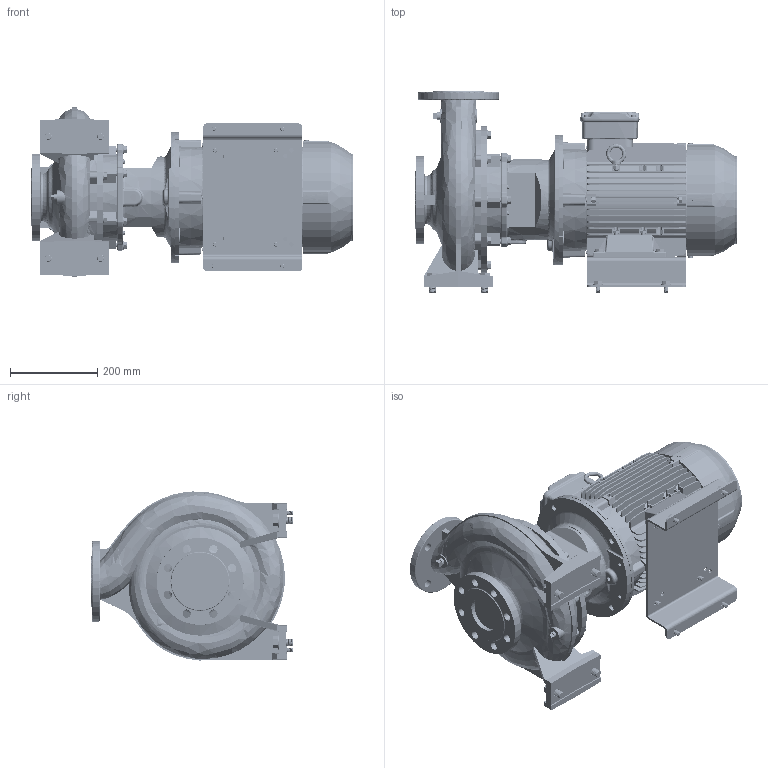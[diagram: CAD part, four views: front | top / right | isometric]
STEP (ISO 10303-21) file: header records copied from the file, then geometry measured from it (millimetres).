
FILE_DESCRIPTION (( 'STEP AP214' ), '1' );
FILE_NAME ('GSD4 65-250_5.5_(132S)_W21.STEP', '2026-07-01T02:01:27', ( '' ), ( '' ), 'SwSTEP 2.0', 'SolidWorks 2024', '' );
FILE_SCHEMA (( 'AUTOMOTIVE_DESIGN' ));
Length unit declared in the file: millimetre
Products named in the file (12): Parametric bolt and washer_SFT-A249B; Parametric bolt_SFT-A353B; 132S ALIE3_W21T_B35; Parametric bolt and washer_SFT-A253B; 140_178 x 68 BP - 271472191; GSD4 65-250_5.5_(132S)_W21; 65-250-132S_ﾃﾞﾌｫﾙﾄ; Parametric Flat Washer_M16; Parametric Flat Washer_M10; Parametric bolt_SFT-A253B; Parametric bolt_SFT-A249B; Parametric bolt and washer_SFT-A353B
Assembly tree (21 placements, depth 3):
  GSD4 65-250_5.5_(132S)_W21
    65-250-132S_ﾃﾞﾌｫﾙﾄ
    140_178 x 68 BP - 271472191
    Parametric bolt and washer_SFT-A353B  x4
      Parametric bolt_SFT-A353B
      Parametric Flat Washer_M16
    Parametric bolt and washer_SFT-A249B  x4
      Parametric bolt_SFT-A249B
      Parametric Flat Washer_M10
    Parametric bolt and washer_SFT-A253B  x4
      Parametric bolt_SFT-A253B
      Parametric Flat Washer_M10
    132S ALIE3_W21T_B35
Bounding box: 739.8 x 463 x 388.13 mm (x, y, z)
Volume: 34890941.8 mm3; surface area: 2342904.1 mm2
Topology: 31 solids, 31 shells, 5100 faces, 13196 edges, 8515 vertices
Faces by surface type: plane 2989, cylinder 1221, torus 289, bspline 288, cone 281, sphere 32
Entity records: 177931 total; most frequent: CARTESIAN_POINT 68026, ORIENTED_EDGE 23672, DIRECTION 21306, EDGE_CURVE 11836, LINE 7786, VECTOR 7786, VERTEX_POINT 7642, AXIS2_PLACEMENT_3D 6760
